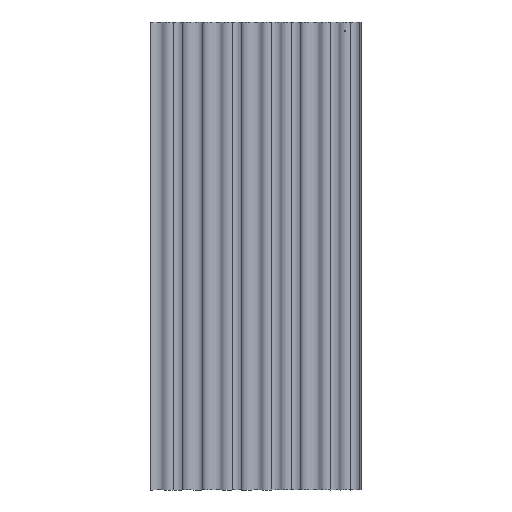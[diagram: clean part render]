
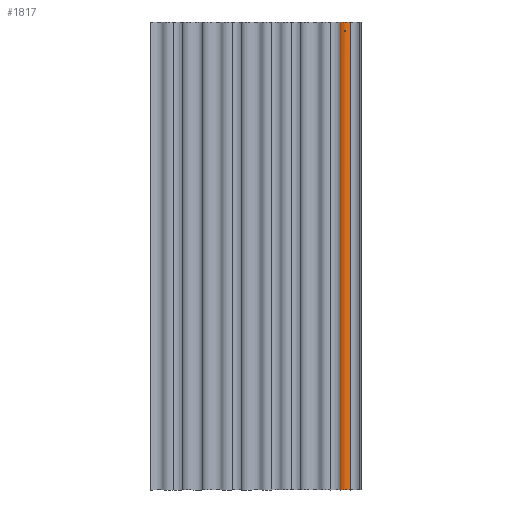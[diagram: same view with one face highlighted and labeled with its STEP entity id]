
A CAD part, front view. The second image highlights one B-rep face of the part: STEP entity #1817.
In plain terms, the highlighted cylindrical face has radius 21.558 mm (diameter 43.117 mm), a partial arc.
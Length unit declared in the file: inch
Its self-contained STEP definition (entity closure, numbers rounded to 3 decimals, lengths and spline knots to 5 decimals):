
#7 = DIRECTION ( 'NONE',  ( 1., 0., 0. ) ) ;
#31 = VERTEX_POINT ( 'NONE', #1021 ) ;
#54 = EDGE_LOOP ( 'NONE', ( #1394, #1780 ) ) ;
#58 = CARTESIAN_POINT ( 'NONE',  ( 19.30207, -0.0177, -0.99582 ) ) ;
#67 = VECTOR ( 'NONE', #711, 39.37008 ) ;
#142 = CARTESIAN_POINT ( 'NONE',  ( 19.27108, -0.01945, -1.05459 ) ) ;
#149 = ORIENTED_EDGE ( 'NONE', *, *, #1858, .T. ) ;
#150 = CARTESIAN_POINT ( 'NONE',  ( 19.29577, -0.01814, -1.02768 ) ) ;
#215 = EDGE_CURVE ( 'NONE', #762, #31, #1747, .T. ) ;
#229 = CARTESIAN_POINT ( 'NONE',  ( 19.23958, 0.82875, -50. ) ) ;
#250 = CARTESIAN_POINT ( 'NONE',  ( 19.27804, -0.01915, -1.04993 ) ) ;
#261 = CARTESIAN_POINT ( 'NONE',  ( 19.77725, 0.17202, -50. ) ) ;
#281 = CARTESIAN_POINT ( 'NONE',  ( 19.24784, -0.02, -1.0625 ) ) ;
#284 = B_SPLINE_CURVE_WITH_KNOTS ( 'NONE', 3,
 ( #1254, #1511, #1043, #2006, #776, #879, #1350, #1960, #747, #2025, #1816, #782, #58, #1100, #721, #150, #411, #1837, #1981, #250, #142, #1265, #281, #834 ),
 .UNSPECIFIED., .F., .F.,
 ( 4, 2, 2, 2, 2, 2, 2, 2, 2, 2, 2, 4 ),
 ( 0.00496, 0.00559, 0.00621, 0.00652, 0.00683, 0.00714, 0.00745, 0.00807, 0.00838, 0.00869, 0.00931, 0.00993 ),
 .UNSPECIFIED. ) ;
#289 = CYLINDRICAL_SURFACE ( 'NONE', #714, 0.84875 ) ;
#301 = VERTEX_POINT ( 'NONE', #860 ) ;
#377 = LINE ( 'NONE', #867, #67 ) ;
#394 = CARTESIAN_POINT ( 'NONE',  ( 19.23958, 0.82875, 0. ) ) ;
#396 = DIRECTION ( 'NONE',  ( 1., 0., 0. ) ) ;
#405 = DIRECTION ( 'NONE',  ( 0., 0., 1. ) ) ;
#411 = CARTESIAN_POINT ( 'NONE',  ( 19.29385, -0.01827, -1.03127 ) ) ;
#414 = CARTESIAN_POINT ( 'NONE',  ( 19.21187, -0.01956, -0.94383 ) ) ;
#440 = CARTESIAN_POINT ( 'NONE',  ( 18.70191, 0.17202, 0. ) ) ;
#464 = CARTESIAN_POINT ( 'NONE',  ( 19.21186, -0.01956, -1.05616 ) ) ;
#500 = DIRECTION ( 'NONE',  ( 1., 0., 0. ) ) ;
#625 = CARTESIAN_POINT ( 'NONE',  ( 19.21942, -0.01977, -1.0593 ) ) ;
#631 = CARTESIAN_POINT ( 'NONE',  ( 19.20145, -0.01915, -0.95031 ) ) ;
#664 = CARTESIAN_POINT ( 'NONE',  ( 19.23958, 0.82875, -50. ) ) ;
#711 = DIRECTION ( 'NONE',  ( 0., 0., 1. ) ) ;
#714 = AXIS2_PLACEMENT_3D ( 'NONE', #229, #840, #7 ) ;
#721 = CARTESIAN_POINT ( 'NONE',  ( 19.30047, -0.01782, -1.01631 ) ) ;
#729 = CARTESIAN_POINT ( 'NONE',  ( 19.20822, -0.01943, -0.94578 ) ) ;
#741 = CARTESIAN_POINT ( 'NONE',  ( 19.17872, -0.01782, -1.01641 ) ) ;
#747 = CARTESIAN_POINT ( 'NONE',  ( 19.29573, -0.01814, -0.97225 ) ) ;
#762 = VERTEX_POINT ( 'NONE', #440 ) ;
#763 = CARTESIAN_POINT ( 'NONE',  ( 19.17908, -0.01784, -0.98378 ) ) ;
#776 = CARTESIAN_POINT ( 'NONE',  ( 19.27798, -0.01915, -0.95002 ) ) ;
#782 = CARTESIAN_POINT ( 'NONE',  ( 19.30167, -0.01773, -0.99177 ) ) ;
#787 = ORIENTED_EDGE ( 'NONE', *, *, #1641, .F. ) ;
#797 = CARTESIAN_POINT ( 'NONE',  ( 19.17708, -0.0177, -0.99594 ) ) ;
#834 = CARTESIAN_POINT ( 'NONE',  ( 19.23958, -0.02, -1.0625 ) ) ;
#840 = DIRECTION ( 'NONE',  ( 0., 0., 1. ) ) ;
#860 = CARTESIAN_POINT ( 'NONE',  ( 18.70191, 0.17202, -50. ) ) ;
#867 = CARTESIAN_POINT ( 'NONE',  ( 18.70191, 0.17202, -50. ) ) ;
#879 = CARTESIAN_POINT ( 'NONE',  ( 19.28662, -0.0187, -0.95865 ) ) ;
#896 = CARTESIAN_POINT ( 'NONE',  ( 19.18496, -0.01825, -1.03145 ) ) ;
#911 = CARTESIAN_POINT ( 'NONE',  ( 19.20147, -0.01915, -1.04971 ) ) ;
#915 = CARTESIAN_POINT ( 'NONE',  ( 19.18987, -0.01855, -0.96189 ) ) ;
#958 = VECTOR ( 'NONE', #1148, 39.37008 ) ;
#963 = EDGE_LOOP ( 'NONE', ( #1104, #787, #1279, #149 ) ) ;
#1021 = CARTESIAN_POINT ( 'NONE',  ( 19.77725, 0.17202, 0. ) ) ;
#1031 = CARTESIAN_POINT ( 'NONE',  ( 19.23958, -0.02, -0.9375 ) ) ;
#1043 = CARTESIAN_POINT ( 'NONE',  ( 19.25596, -0.01988, -0.93914 ) ) ;
#1054 = CARTESIAN_POINT ( 'NONE',  ( 19.23135, -0.01997, -0.93791 ) ) ;
#1057 = CARTESIAN_POINT ( 'NONE',  ( 19.19826, -0.019, -1.04707 ) ) ;
#1063 = CARTESIAN_POINT ( 'NONE',  ( 19.2355, -0.02, -0.9375 ) ) ;
#1072 = CARTESIAN_POINT ( 'NONE',  ( 19.20827, -0.01943, -1.05424 ) ) ;
#1078 = CARTESIAN_POINT ( 'NONE',  ( 19.22339, -0.01986, -1.06051 ) ) ;
#1083 = CARTESIAN_POINT ( 'NONE',  ( 19.19829, -0.019, -0.9529 ) ) ;
#1087 = FACE_OUTER_BOUND ( 'NONE', #963, .T. ) ;
#1100 = CARTESIAN_POINT ( 'NONE',  ( 19.30208, -0.0177, -1.0082 ) ) ;
#1104 = ORIENTED_EDGE ( 'NONE', *, *, #215, .F. ) ;
#1148 = DIRECTION ( 'NONE',  ( 0., 0., 1. ) ) ;
#1193 = CARTESIAN_POINT ( 'NONE',  ( 19.23958, -0.02, -1.0625 ) ) ;
#1230 = VERTEX_POINT ( 'NONE', #1449 ) ;
#1254 = CARTESIAN_POINT ( 'NONE',  ( 19.23958, -0.02, -0.9375 ) ) ;
#1265 = CARTESIAN_POINT ( 'NONE',  ( 19.25604, -0.01987, -1.06084 ) ) ;
#1279 = ORIENTED_EDGE ( 'NONE', *, *, #1292, .T. ) ;
#1292 = EDGE_CURVE ( 'NONE', #301, #1860, #1723, .T. ) ;
#1350 = CARTESIAN_POINT ( 'NONE',  ( 19.28926, -0.01855, -0.96187 ) ) ;
#1363 = CARTESIAN_POINT ( 'NONE',  ( 19.21945, -0.01977, -0.94069 ) ) ;
#1372 = CARTESIAN_POINT ( 'NONE',  ( 19.77725, 0.17202, -50. ) ) ;
#1381 = CARTESIAN_POINT ( 'NONE',  ( 19.22334, -0.01985, -0.93951 ) ) ;
#1394 = ORIENTED_EDGE ( 'NONE', *, *, #1972, .T. ) ;
#1397 = CARTESIAN_POINT ( 'NONE',  ( 19.18339, -0.01814, -0.97232 ) ) ;
#1449 = CARTESIAN_POINT ( 'NONE',  ( 19.23958, -0.02, -0.9375 ) ) ;
#1453 = AXIS2_PLACEMENT_3D ( 'NONE', #394, #405, #396 ) ;
#1463 = FACE_BOUND ( 'NONE', #54, .T. ) ;
#1511 = CARTESIAN_POINT ( 'NONE',  ( 19.24774, -0.02, -0.9375 ) ) ;
#1540 = CARTESIAN_POINT ( 'NONE',  ( 19.23139, -0.01997, -1.06209 ) ) ;
#1543 = CARTESIAN_POINT ( 'NONE',  ( 19.18535, -0.01827, -0.96866 ) ) ;
#1567 = CARTESIAN_POINT ( 'NONE',  ( 19.23545, -0.02, -1.0625 ) ) ;
#1578 = DIRECTION ( 'NONE',  ( 0., 0., 1. ) ) ;
#1641 = EDGE_CURVE ( 'NONE', #301, #762, #377, .T. ) ;
#1674 = CARTESIAN_POINT ( 'NONE',  ( 19.17708, -0.0177, -1.00818 ) ) ;
#1676 = B_SPLINE_CURVE_WITH_KNOTS ( 'NONE', 3,
 ( #1976, #1567, #1540, #1078, #625, #464, #1072, #911, #1057, #1833, #896, #741, #1674, #797, #1699, #763, #1853, #1397, #1543, #915, #2015, #1083, #631, #729, #414, #1363, #1381, #1054, #1063, #1031 ),
 .UNSPECIFIED., .F., .F.,
 ( 4, 2, 2, 2, 2, 2, 2, 2, 2, 2, 2, 2, 2, 2, 4 ),
 ( 0., 0.00031, 0.00062, 0.00093, 0.00124, 0.00186, 0.00248, 0.00279, 0.0031, 0.00341, 0.00372, 0.00403, 0.00434, 0.00465, 0.00496 ),
 .UNSPECIFIED. ) ;
#1699 = CARTESIAN_POINT ( 'NONE',  ( 19.17748, -0.01773, -0.9918 ) ) ;
#1723 = CIRCLE ( 'NONE', #1861, 0.84875 ) ;
#1747 = CIRCLE ( 'NONE', #1453, 0.84875 ) ;
#1780 = ORIENTED_EDGE ( 'NONE', *, *, #1795, .T. ) ;
#1795 = EDGE_CURVE ( 'NONE', #1230, #1993, #284, .T. ) ;
#1816 = CARTESIAN_POINT ( 'NONE',  ( 19.30007, -0.01784, -0.98378 ) ) ;
#1817 = ADVANCED_FACE ( 'NONE', ( #1087, #1463 ), #289, .T. ) ;
#1833 = CARTESIAN_POINT ( 'NONE',  ( 19.18961, -0.01855, -1.03842 ) ) ;
#1837 = CARTESIAN_POINT ( 'NONE',  ( 19.28932, -0.01854, -1.03806 ) ) ;
#1853 = CARTESIAN_POINT ( 'NONE',  ( 19.18026, -0.01793, -0.97989 ) ) ;
#1858 = EDGE_CURVE ( 'NONE', #1860, #31, #1862, .T. ) ;
#1860 = VERTEX_POINT ( 'NONE', #261 ) ;
#1861 = AXIS2_PLACEMENT_3D ( 'NONE', #664, #1578, #500 ) ;
#1862 = LINE ( 'NONE', #1372, #958 ) ;
#1960 = CARTESIAN_POINT ( 'NONE',  ( 19.29381, -0.01827, -0.96866 ) ) ;
#1972 = EDGE_CURVE ( 'NONE', #1993, #1230, #1676, .T. ) ;
#1976 = CARTESIAN_POINT ( 'NONE',  ( 19.23958, -0.02, -1.0625 ) ) ;
#1981 = CARTESIAN_POINT ( 'NONE',  ( 19.28668, -0.0187, -1.04128 ) ) ;
#1993 = VERTEX_POINT ( 'NONE', #1193 ) ;
#2006 = CARTESIAN_POINT ( 'NONE',  ( 19.271, -0.01945, -0.94536 ) ) ;
#2015 = CARTESIAN_POINT ( 'NONE',  ( 19.19246, -0.0187, -0.95873 ) ) ;
#2025 = CARTESIAN_POINT ( 'NONE',  ( 19.29887, -0.01793, -0.9798 ) ) ;
